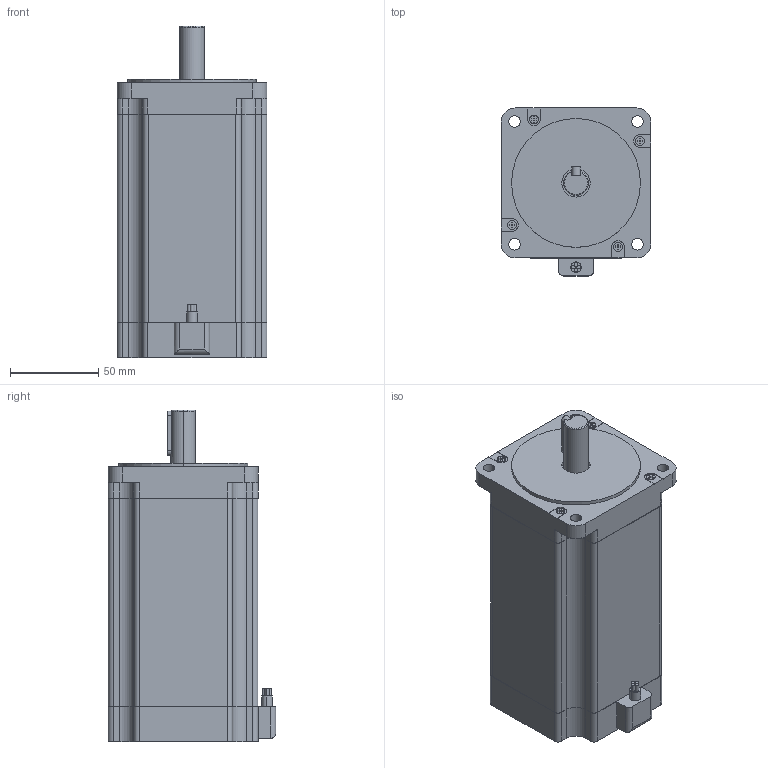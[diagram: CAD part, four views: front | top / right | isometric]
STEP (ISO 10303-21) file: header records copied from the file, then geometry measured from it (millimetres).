
FILE_DESCRIPTION (( 'STEP AP203' ), '1' );
FILE_NAME ('STC-86D60-04156.STEP', '2019-10-25T03:16:08', ( 'China' ), ( 'Home' ), 'SwSTEP 2.0', 'SolidWorks 2016', '' );
FILE_SCHEMA (( 'CONFIG_CONTROL_DESIGN' ));
Length unit declared in the file: millimetre
Products named in the file (1): STC-86D60-04156
Bounding box: 85 x 95 x 188 mm (x, y, z)
Volume: 1019889.5 mm3; surface area: 67965.7 mm2
Topology: 2 solids, 2 shells, 222 faces, 593 edges, 394 vertices
Faces by surface type: plane 132, cylinder 87, bspline 3
Entity records: 7109 total; most frequent: CARTESIAN_POINT 1327, DIRECTION 1195, ORIENTED_EDGE 1186, EDGE_CURVE 593, LINE 413, VECTOR 413, VERTEX_POINT 394, AXIS2_PLACEMENT_3D 391
